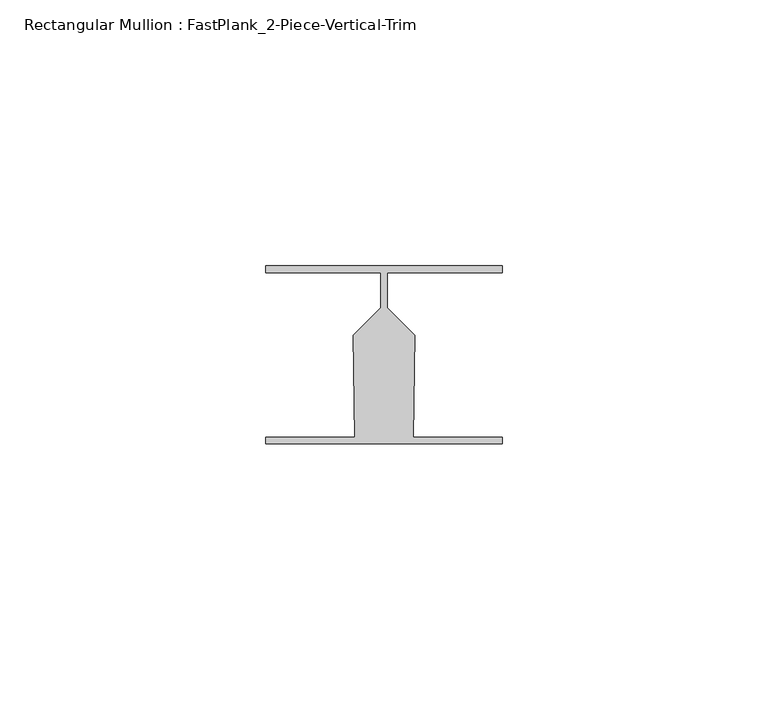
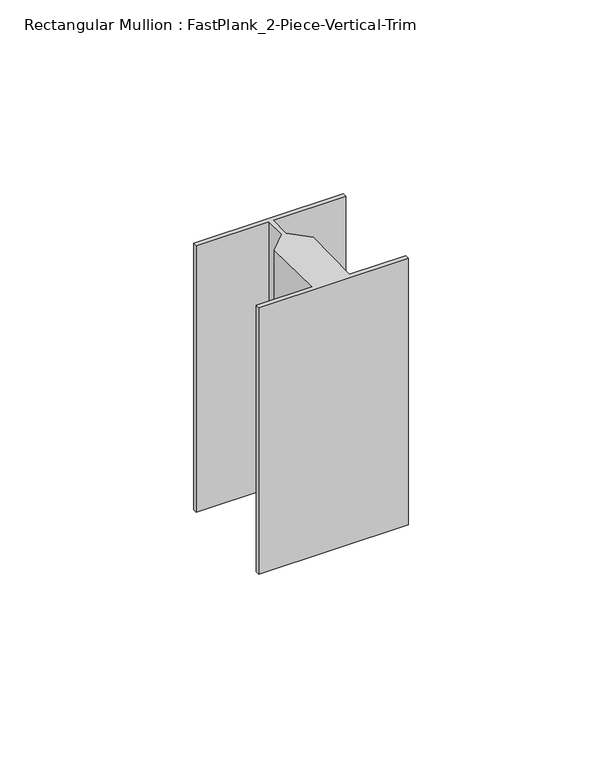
"""IFC4 building model written with IfcOpenShell, lengths in millimetres: member geometry, Rectangular Mullion : FastPlank_2-Piece-Vertical-Trim."""

import ifcopenshell
import ifcopenshell.guid

model = None  # the IFC model being written
_history = None  # IfcOwnerHistory: only IFC2X3 demands one
_inside = {}  # id of a spatial element -> (the spatial element, [elements in it])
_under = {}  # id of a project, library or spatial element -> (it, [spatial elements below it])
_declared = {}  # id of a project -> (the project, [libraries it declares])
_typed = {}  # id of a type object -> (the type object, [elements of that type])
_made_of = {}  # id of a material, layer set ... -> (it, [elements and type objects made of it])


def new_model(schema):
    """Start an empty IFC model of exactly this schema.

    Asked for "IFC4X3", IfcOpenShell would pick the latest addendum, in which some entities
    have other attributes; the version numbers below select the first issue.
    IFC2X3 requires an IfcOwnerHistory on every rooted entity: one is made here for all.
    """
    global model, _history
    if schema == "IFC4X3":
        model = ifcopenshell.file(schema_version=(4, 3, 0, 0))
    else:
        model = ifcopenshell.file(schema=schema)
    _inside.clear()
    _under.clear()
    _declared.clear()
    _typed.clear()
    _made_of.clear()
    _history = None
    if model.schema == "IFC2X3":
        org = make("IfcOrganization", Name="unknown")
        user = make(
            "IfcPersonAndOrganization",
            ThePerson=make("IfcPerson", FamilyName="unknown"),
            TheOrganization=org,
        )
        app = make(
            "IfcApplication",
            ApplicationDeveloper=org,
            Version="unknown",
            ApplicationFullName="unknown",
            ApplicationIdentifier="unknown",
        )
        _history = make(
            "IfcOwnerHistory",
            OwningUser=user,
            OwningApplication=app,
            ChangeAction="ADDED",
            CreationDate=0,
        )
    return model


def make(cls, **values):
    """One entity of the class cls with the attributes given. An attribute that is None is left unset."""
    return model.create_entity(
        cls, **{name: value for name, value in values.items() if value is not None}
    )


def rooted(cls, **values):
    """An entity with a GlobalId (a new one), such as an element, a storey or a relation."""
    return make(cls, GlobalId=ifcopenshell.guid.new(), OwnerHistory=_history, **values)


def si_unit(unit_type, name, prefix=None):
    """IfcSIUnit, for example si_unit("LENGTHUNIT", "METRE", prefix="MILLI")."""
    return make("IfcSIUnit", UnitType=unit_type, Prefix=prefix, Name=name)


def assignment(units):
    """IfcUnitAssignment: the units of a project."""
    return None if units is None else make("IfcUnitAssignment", Units=units)


def point(xyz):
    """IfcCartesianPoint."""
    return None if xyz is None else make("IfcCartesianPoint", Coordinates=xyz)


def direction(xyz):
    """IfcDirection."""
    return None if xyz is None else make("IfcDirection", DirectionRatios=xyz)


def frame(location, z_axis=None, x_axis=None):
    """IfcAxis2Placement3D, a coordinate frame: its origin and axes. An axis left out is left unset."""
    return make(
        "IfcAxis2Placement3D",
        Location=point(location),
        Axis=direction(z_axis),
        RefDirection=direction(x_axis),
    )


def origin():
    """The frame at (0, 0, 0) with its axes left unset."""
    return frame((0.0, 0.0, 0.0))


def place(relative_to, where):
    """IfcLocalPlacement: puts the frame where relative to a parent placement (None: the world)."""
    return make(
        "IfcLocalPlacement", PlacementRelTo=relative_to, RelativePlacement=where
    )


def context(
    kind, dimensions, precision=None, world=None, true_north=None, identifier=None
):
    """IfcGeometricRepresentationContext, for example the 3D "Model" context."""
    return make(
        "IfcGeometricRepresentationContext",
        ContextIdentifier=identifier,
        ContextType=kind,
        CoordinateSpaceDimension=dimensions,
        Precision=precision,
        WorldCoordinateSystem=world,
        TrueNorth=true_north,
    )


def project(units=None, contexts=None):
    """IfcProject with its units and contexts."""
    return rooted(
        "IfcProject",
        Name="project",
        RepresentationContexts=contexts,
        UnitsInContext=assignment(units),
    )


def spatial(cls, under=None, at=None, **own):
    """A site, building, storey or space (cls), placed at a placement, below another one or the project."""
    s = rooted(cls, ObjectPlacement=at, **own)
    if under is not None:
        _under.setdefault(under.id(), (under, []))[1].append(s)
    return s


def polyline(points):
    """IfcPolyline through the points."""
    return make("IfcPolyline", Points=[point(p) for p in points])


def outline(outer, holes=None, kind="AREA"):
    """IfcArbitraryClosedProfileDef: a profile drawn as a closed curve; with holes, ...WithVoids."""
    if holes is None:
        return make("IfcArbitraryClosedProfileDef", ProfileType=kind, OuterCurve=outer)
    return make(
        "IfcArbitraryProfileDefWithVoids",
        ProfileType=kind,
        OuterCurve=outer,
        InnerCurves=holes,
    )


def extrude(swept, where, along, depth):
    """IfcExtrudedAreaSolid: the profile swept, set in the frame where, extruded along a direction by depth."""
    return make(
        "IfcExtrudedAreaSolid",
        SweptArea=swept,
        Position=where,
        ExtrudedDirection=direction(along),
        Depth=depth,
    )


def shape(context_of_items, identifier, shape_type, items):
    """IfcShapeRepresentation: the items that make up one representation, for example the "Body"."""
    return make(
        "IfcShapeRepresentation",
        ContextOfItems=context_of_items,
        RepresentationIdentifier=identifier,
        RepresentationType=shape_type,
        Items=items,
    )


def source(mapping_origin, context_of_items, identifier, shape_type, items):
    """IfcRepresentationMap: a shape defined once, which mapped items show again and again."""
    return make(
        "IfcRepresentationMap",
        MappingOrigin=mapping_origin,
        MappedRepresentation=shape(context_of_items, identifier, shape_type, items),
    )


def transform(
    local_origin,
    x_axis=None,
    y_axis=None,
    z_axis=None,
    scale=None,
    scale2=None,
    scale3=None,
    uniform=True,
):
    """IfcCartesianTransformationOperator3D, or its non-uniform kind. x_axis, y_axis, z_axis: its Axis1, 2, 3."""
    if uniform:
        return make(
            "IfcCartesianTransformationOperator3D",
            Axis1=direction(x_axis),
            Axis2=direction(y_axis),
            LocalOrigin=point(local_origin),
            Scale=scale,
            Axis3=direction(z_axis),
        )
    return make(
        "IfcCartesianTransformationOperator3DnonUniform",
        Axis1=direction(x_axis),
        Axis2=direction(y_axis),
        LocalOrigin=point(local_origin),
        Scale=scale,
        Axis3=direction(z_axis),
        Scale2=scale2,
        Scale3=scale3,
    )


def mapped(mapping_source, mapping_target):
    """IfcMappedItem: shows the shape of a source again, moved by a transform."""
    return make(
        "IfcMappedItem", MappingSource=mapping_source, MappingTarget=mapping_target
    )


def made_of(thing, what):
    """Note that an element or type object is made of a material, layer set ...; save() writes the relation."""
    if what is not None:
        _made_of.setdefault(what.id(), (what, []))[1].append(thing)
    return thing


def element(
    cls,
    number,
    at=None,
    inside=None,
    cuts=None,
    type_object=None,
    material=None,
    context=None,
    identifier="Body",
    shape_type=None,
    held_by="IfcProductDefinitionShape",
    body=None,
    shapes=None,
    **own,
):
    """One element of the class cls, such as IfcWall. Its Tag is "e" and its number.

    at: its placement. inside: the storey or other place that contains it. cuts: it is an
    opening in that element (IfcRelVoidsElement). A single representation is given by context,
    identifier, shape_type and body (its items); several are given by shapes. held_by: the class
    of the entity that holds the representations. save() writes the other relations.
    """
    e = rooted(cls, Tag="e%d" % number, ObjectPlacement=at, **own)
    if body is not None:
        shapes = [shape(context, identifier, shape_type, body)]
    if shapes is not None:
        e.Representation = make(held_by, Representations=shapes)
    if inside is not None:
        _inside.setdefault(inside.id(), (inside, []))[1].append(e)
    if cuts is not None:
        rooted(
            "IfcRelVoidsElement", RelatingBuildingElement=cuts, RelatedOpeningElement=e
        )
    if type_object is not None:
        _typed.setdefault(type_object.id(), (type_object, []))[1].append(e)
    return made_of(e, material)


def aggregate(whole, parts):
    """IfcRelAggregates: a whole, such as a stair, and the parts it consists of."""
    return rooted("IfcRelAggregates", RelatingObject=whole, RelatedObjects=parts)


def save(model, path):
    """Write the relations noted so far, then the file.

    IfcRelAggregates (storeys below a building ...), IfcRelContainedInSpatialStructure (elements
    in a storey), IfcRelDefinesByType, IfcRelAssociatesMaterial and IfcRelDeclares: one each for
    every whole, place, type object, material and project.
    """
    for whole, parts in _under.values():
        aggregate(whole, parts)
    for where, things in _inside.values():
        rooted(
            "IfcRelContainedInSpatialStructure",
            RelatedElements=things,
            RelatingStructure=where,
        )
    for kind, things in _typed.values():
        rooted("IfcRelDefinesByType", RelatedObjects=things, RelatingType=kind)
    for what, things in _made_of.values():
        rooted("IfcRelAssociatesMaterial", RelatedObjects=things, RelatingMaterial=what)
    for by, libraries in _declared.values():
        rooted("IfcRelDeclares", RelatingContext=by, RelatedDefinitions=libraries)
    model.write(path)


def rectangular_mullion_fastplank_2_piece_vertical_trim_78afc4f4(model_context):
    return source(origin(), model_context, "Body", "SweptSolid", [
        extrude(outline(polyline([(22.2251761, 11.8625052), (22.2251761, 10.5625078), (0.6499987, 10.5625078), (0.6499987, 3.992521), (5.8241876, -1.1816679), (5.4899028, -20.332833), (22.2251761, -20.332833), (22.2251761, -21.6328304), (-22.2251761, -21.6328304), (-22.2251761, -20.332833), (-5.4899028, -20.332833), (-5.8241876, -1.1816679), (-0.6499987, 3.992521), (-0.6499987, 10.5625078), (-22.2251761, 10.5625078), (-22.2251761, 11.8625052), (22.2251761, 11.8625052)])), frame((0.0, 0.0, -83.8500189), z_axis=(0.0, 0.0, 1.0), x_axis=(1.0, 0.0, 0.0)), (0.0, 0.0, 1.0), 83.8500189),
    ])


if __name__ == "__main__":
    model = new_model("IFC4")
    model_context = context("Model", 3, world=origin())
    ifc_project = project(units=[si_unit("LENGTHUNIT", "METRE", prefix="MILLI")], contexts=[model_context])
    site = spatial("IfcSite", under=ifc_project)
    building = spatial("IfcBuilding", under=site)
    placement = place(None, origin())
    rectangular_mullion_fastplank_2_piece_vertical_trim_shape = rectangular_mullion_fastplank_2_piece_vertical_trim_78afc4f4(model_context)
    element("IfcMember", 1, ObjectType="Rectangular Mullion : FastPlank_2-Piece-Vertical-Trim", at=placement, inside=building, context=model_context, shape_type="MappedRepresentation", body=[
        mapped(rectangular_mullion_fastplank_2_piece_vertical_trim_shape, transform((0.0, 0.0, 0.0), x_axis=(1.0, 0.0, 0.0), y_axis=(0.0, 1.0, 0.0), z_axis=(0.0, 0.0, 1.0))),
    ])
    save(model, "model.ifc")
